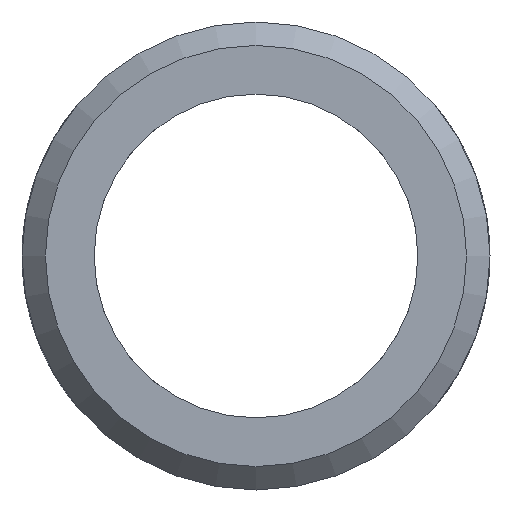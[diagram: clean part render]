
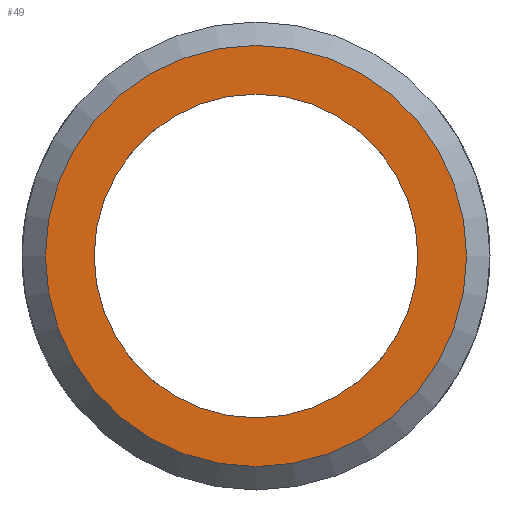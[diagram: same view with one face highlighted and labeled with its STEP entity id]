
A CAD part, front view. The second image highlights one B-rep face of the part: STEP entity #49.
In plain terms, the highlighted planar face has unit normal (0, -1, 0).
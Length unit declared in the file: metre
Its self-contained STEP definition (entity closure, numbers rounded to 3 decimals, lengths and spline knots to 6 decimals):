
#49 = ADVANCED_FACE( '', ( #95, #96 ), #97, .F. );
#95 = FACE_OUTER_BOUND( '', #142, .T. );
#96 = FACE_BOUND( '', #143, .T. );
#97 = PLANE( '', #144 );
#142 = EDGE_LOOP( '', ( #190 ) );
#143 = EDGE_LOOP( '', ( #191 ) );
#144 = AXIS2_PLACEMENT_3D( '', #192, #193, #194 );
#190 = ORIENTED_EDGE( '', *, *, #226, .T. );
#191 = ORIENTED_EDGE( '', *, *, #228, .F. );
#192 = CARTESIAN_POINT( '', ( 0., 0., 0. ) );
#193 = DIRECTION( '', ( 0., 1., 0. ) );
#194 = DIRECTION( '', ( 0., 0., 1. ) );
#226 = EDGE_CURVE( '', #251, #251, #252, .F. );
#228 = EDGE_CURVE( '', #254, #254, #255, .T. );
#251 = VERTEX_POINT( '', #466 );
#252 = CIRCLE( '', #467, 0.0045 );
#254 = VERTEX_POINT( '', #469 );
#255 = CIRCLE( '', #470, 0.003459 );
#466 = CARTESIAN_POINT( '', ( 0., 0., 0.0045 ) );
#467 = AXIS2_PLACEMENT_3D( '', #553, #554, #555 );
#469 = CARTESIAN_POINT( '', ( 0.003459, 0., 0. ) );
#470 = AXIS2_PLACEMENT_3D( '', #556, #557, #558 );
#553 = CARTESIAN_POINT( '', ( 0., 0., 0. ) );
#554 = DIRECTION( '', ( 0., 1., 0. ) );
#555 = DIRECTION( '', ( 0., 0., 1. ) );
#556 = CARTESIAN_POINT( '', ( 0., 0., 0. ) );
#557 = DIRECTION( '', ( 0., -1., 0. ) );
#558 = DIRECTION( '', ( 1., 0., 0. ) );
